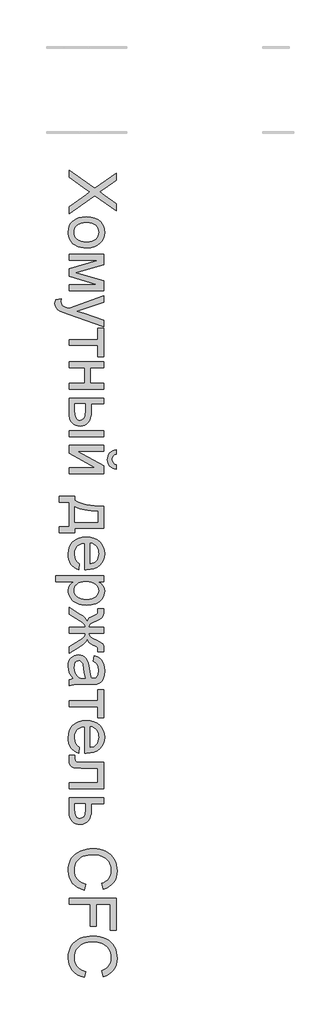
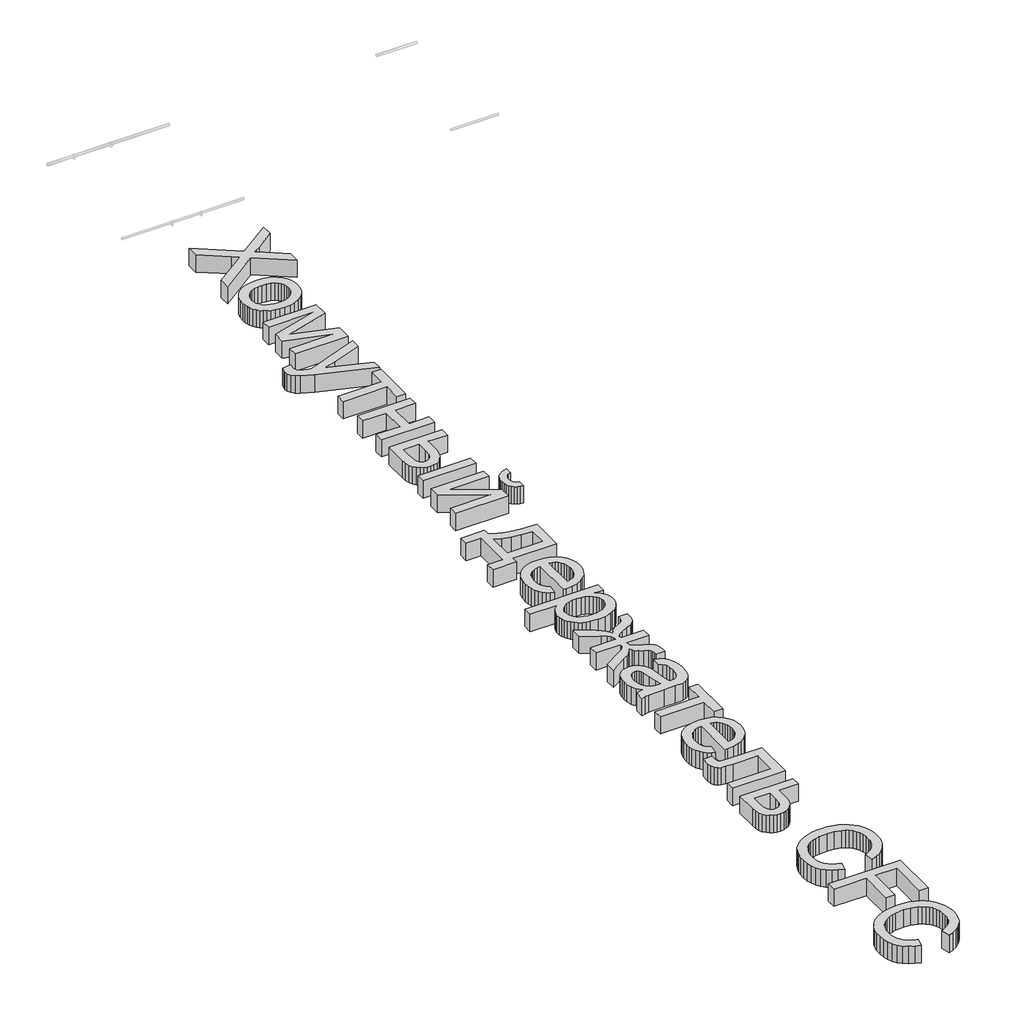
# One storey, part 25 of 33: 1 proxy.
"""IFC4 building model written with IfcOpenShell, lengths in millimetres."""

from ifc_helpers import new_model, si_unit, origin, origin_with_axes, place, context, project, spatial, polyline, outline, extrude, element, save

model = new_model("IFC4")

# Units and contexts
model_context = context("Model", 3, world=origin())
ifc_project = project(units=[si_unit("LENGTHUNIT", "METRE", prefix="MILLI")], contexts=[model_context])

# Site, building, storey
site = spatial("IfcSite", under=ifc_project)
building = spatial("IfcBuilding", under=site)
storey = spatial("IfcBuildingStorey", under=building, Name="Уровень 1", Elevation=0.0)

# Proxy
placement = place(None, origin())
element("IfcBuildingElementProxy", 1, Name="Надпись на модели 1", ObjectType="Надпись на модели 1", at=placement, inside=storey, context=model_context, shape_type="SweptSolid", body=[
    extrude(outline(polyline([(60724.4625724, -502.3363684), (61046.3856493, -730.0767531), (61315.2318032, -539.2594454), (61315.2318032, -627.8171377), (61163.9337262, -735.2690607), (61125.6043993, -760.90608), (61104.9433416, -771.4709838), (61164.9433416, -813.87483), (61315.2318032, -920.1729069), (61315.2318032, -1010.0286761), (61045.5202647, -819.2113684), (60724.4625724, -1046.9517531), (60724.4625724, -958.3940607), (60938.5010339, -806.6632915), (60982.9241109, -775.0767531), (60934.1741109, -740.3171377), (60724.4625724, -592.1921377), (60724.4625724, -502.3363684)])), origin_with_axes(), (0.0, 0.0, 1.0), 150.0),
    extrude(outline(polyline([(60941.3856493, -1083.87483), (60997.5725484, -1087.8682194), (61045.9890147, -1099.8483877), (61086.6350484, -1119.8153348), (61119.5106493, -1147.7690607), (61140.5232695, -1175.9120896), (61155.5322839, -1206.9757915), (61164.5376926, -1240.9601665), (61167.5394955, -1277.8652146), (61163.8841469, -1318.6058997), (61152.9181012, -1355.4433396), (61134.6413585, -1388.3775343), (61109.0539186, -1417.4084838), (61077.0211662, -1441.1028949), (61039.4084859, -1458.0274742), (60996.2158777, -1468.1822218), (60947.4433416, -1471.5671377), (60907.9150964, -1470.0707434), (60872.8399762, -1465.5815607), (60842.2179811, -1458.0995896), (60816.0491109, -1447.62483), (60793.445445, -1434.287991), (60773.5190628, -1418.2197819), (60756.2699642, -1399.4202026), (60741.6981493, -1377.8892531), (60730.1191229, -1354.4652747), (60721.8483897, -1329.9866088), (60716.8859498, -1304.4532555), (60715.2318032, -1277.8652146), (60718.8736301, -1236.5295776), (60729.7991109, -1199.3495896), (60748.0082455, -1166.3252506), (60773.5010339, -1137.4565607), (60805.8447839, -1114.0145535), (60844.6068032, -1097.2702627), (60889.7870916, -1087.2236881), (60941.3856493, -1083.87483)]), holes=[polyline([(60941.5298801, -1157.7209838), (60905.71107, -1159.8574021), (60874.6969474, -1166.2666569), (60848.4875123, -1176.9487482), (60827.0827647, -1191.9036761), (60810.4556613, -1210.0947819), (60798.5791589, -1230.4854069), (60791.4532575, -1253.0755511), (60789.077957, -1277.8652146), (60791.4667791, -1302.5286761), (60798.6332455, -1325.0286761), (60810.5773561, -1345.3652146), (60827.2991109, -1363.5382915), (60848.9156974, -1378.4932194), (60875.5443032, -1389.1753107), (60907.1849282, -1395.5845656), (60943.8375724, -1397.7209838), (60978.5205652, -1395.5710439), (61008.7233897, -1389.1212242), (61034.446046, -1378.3715247), (61055.6885339, -1363.3219454), (61072.3156373, -1345.0812603), (61084.1921397, -1324.7582434), (61091.3180412, -1302.3528949), (61093.6933416, -1277.8652146), (61091.3270556, -1253.0755511), (61084.2281974, -1230.4854069), (61072.3967671, -1210.0947819), (61055.8327647, -1191.9036761), (61034.4911181, -1176.9487482), (61008.3267551, -1166.2666569), (60977.3396758, -1159.8574021), (60941.5298801, -1157.7209838)])]), origin_with_axes(), (0.0, 0.0, 1.0), 150.0),
    extrude(outline(polyline([(61158.3087262, -1554.6440607), (61158.3087262, -1681.7113684), (60811.0010339, -1779.6440607), (61158.3087262, -1885.2209838), (61158.3087262, -2006.9517531), (60724.4625724, -2006.9517531), (60724.4625724, -1933.1055992), (61073.7894955, -1933.1055992), (60724.4625724, -1826.9517531), (60724.4625724, -1730.0286761), (61090.5202647, -1628.4902146), (60724.4625724, -1628.4902146), (60724.4625724, -1554.6440607), (61158.3087262, -1554.6440607)])), origin_with_axes(), (0.0, 0.0, 1.0), 150.0),
    extrude(outline(polyline([(60558.3087262, -2117.7209838), (60629.4144955, -2108.4902146), (60622.9241109, -2145.9902146), (60624.9613705, -2165.7137723), (60631.0731493, -2181.0382915), (60640.8267551, -2192.9733877), (60653.7894955, -2202.5286761), (60708.1644955, -2222.7209838), (60726.0491109, -2228.4902146), (61158.3087262, -2071.5671377), (61158.3087262, -2149.4517531), (60917.4433416, -2232.6729069), (60821.0971878, -2261.6632915), (60906.1933416, -2290.6536761), (61158.3087262, -2376.1825223), (61158.3087262, -2453.4902146), (60714.077957, -2302.4805992), (60617.7318032, -2263.24983), (60586.9745916, -2243.1656954), (60565.6644955, -2220.4132915), (60553.2245916, -2193.9830031), (60549.077957, -2162.8652146), (60551.3856493, -2141.4830031), (60558.3087262, -2117.7209838)])), origin_with_axes(), (0.0, 0.0, 1.0), 150.0),
    extrude(outline(polyline([(61158.3087262, -2477.7209838), (61158.3087262, -2828.4902146), (61084.4625724, -2828.4902146), (61084.4625724, -2690.0286761), (60724.4625724, -2690.0286761), (60724.4625724, -2616.1825223), (61084.4625724, -2616.1825223), (61084.4625724, -2477.7209838), (61158.3087262, -2477.7209838)])), origin_with_axes(), (0.0, 0.0, 1.0), 150.0),
    extrude(outline(polyline([(61158.3087262, -2893.1055992), (61158.3087262, -2966.9517531), (60992.1548801, -2966.9517531), (60992.1548801, -3160.7979069), (61158.3087262, -3160.7979069), (61158.3087262, -3234.6440607), (60724.4625724, -3234.6440607), (60724.4625724, -3160.7979069), (60918.3087262, -3160.7979069), (60918.3087262, -2966.9517531), (60724.4625724, -2966.9517531), (60724.4625724, -2893.1055992), (61158.3087262, -2893.1055992)])), origin_with_axes(), (0.0, 0.0, 1.0), 150.0),
    extrude(outline(polyline([(61158.3087262, -3345.4132915), (61158.3087262, -3419.2594454), (61001.3856493, -3419.2594454), (61001.3856493, -3510.5575223), (60999.0734498, -3552.569241), (60992.1368512, -3589.4697819), (60980.5758537, -3621.2591449), (60964.390457, -3647.93733), (60944.1395556, -3669.0446016), (60920.3820436, -3684.1212242), (60893.117921, -3693.1671978), (60862.3471878, -3696.1825223), (60834.8937623, -3693.6539766), (60809.5046397, -3686.0683396), (60786.17982, -3673.4256112), (60764.9193032, -3655.7257915), (60747.2194835, -3632.4730872), (60734.5767551, -3603.171705), (60726.9911181, -3567.8216449), (60724.4625724, -3526.4229069), (60724.4625724, -3345.4132915), (61158.3087262, -3345.4132915)]), holes=[polyline([(60798.3087262, -3419.2594454), (60798.3087262, -3495.12483), (60802.1849282, -3553.9349261), (60807.0301806, -3575.9571617), (60813.8135339, -3593.0575223), (60822.6521758, -3605.8670175), (60833.6632936, -3615.0166569), (60846.8468873, -3620.5064406), (60862.202957, -3622.3363684), (60886.3255532, -3616.9096857), (60907.6356493, -3600.6296377), (60916.343582, -3586.4995295), (60922.5635339, -3565.8159357), (60927.5394955, -3504.7882915), (60927.5394955, -3419.2594454), (60798.3087262, -3419.2594454)])]), origin_with_axes(), (0.0, 0.0, 1.0), 150.0),
    extrude(outline(polyline([(61158.3087262, -3751.5671377), (61158.3087262, -3825.4132915), (60724.4625724, -3825.4132915), (60724.4625724, -3751.5671377), (61158.3087262, -3751.5671377)])), origin_with_axes(), (0.0, 0.0, 1.0), 150.0),
    extrude(outline(polyline([(61315.2318032, -4176.1825223), (61315.2318032, -4231.5671377), (61290.0319835, -4227.1095055), (61267.9421397, -4219.6500704), (61248.9622719, -4209.1888324), (61233.0923801, -4195.7257915), (61220.5668392, -4179.5313805), (61211.6200243, -4160.8760319), (61206.2519354, -4139.7597458), (61204.4625724, -4116.1825223), (61206.2384137, -4090.5725463), (61211.5659378, -4067.6849261), (61220.4451445, -4047.5196617), (61232.8760339, -4030.0767531), (61248.6783176, -4015.608604), (61267.671707, -4004.3676184), (61289.8562022, -3996.3537963), (61315.2318032, -3991.5671377), (61315.2318032, -4046.9517531), (61290.9108897, -4054.7402146), (61273.6212262, -4067.7209838), (61263.2906974, -4085.9661761), (61259.8471878, -4109.5479069), (61263.1825243, -4136.1584838), (61273.1885339, -4155.4132915), (61290.3700243, -4168.3940607), (61315.2318032, -4176.1825223)])), origin_with_axes(), (0.0, 0.0, 1.0), 150.0),
    extrude(outline(polyline([(61158.3087262, -3936.1825223), (61158.3087262, -4010.0286761), (60827.4433416, -4010.0286761), (61158.3087262, -4191.4709838), (61158.3087262, -4286.9517531), (60724.4625724, -4286.9517531), (60724.4625724, -4213.1055992), (61053.3087262, -4213.1055992), (60724.4625724, -4032.8171377), (60724.4625724, -3936.1825223), (61158.3087262, -3936.1825223)])), origin_with_axes(), (0.0, 0.0, 1.0), 150.0),
    extrude(outline(polyline([(61158.3087262, -4693.1055992), (61158.3087262, -4970.0286761), (60798.3087262, -4970.0286761), (60798.3087262, -5025.4132915), (60604.4625724, -5025.4132915), (60604.4625724, -4951.5671377), (60724.4625724, -4951.5671377), (60724.4625724, -4646.9517531), (60604.4625724, -4646.9517531), (60604.4625724, -4573.1055992), (60798.3087262, -4573.1055992), (60798.3087262, -4619.2594454), (60826.1768152, -4637.2927987), (60858.9397359, -4652.8111281), (60896.5974883, -4665.8144333), (60939.1500724, -4676.3027146), (61038.9397359, -4689.734205), (61158.3087262, -4693.1055992)]), holes=[polyline([(61084.4625724, -4757.7209838), (60994.0479089, -4751.6632915), (60916.2173801, -4740.4132915), (60850.9709859, -4723.9709838), (60798.3087262, -4702.3363684), (60798.3087262, -4896.1825223), (61084.4625724, -4896.1825223), (61084.4625724, -4757.7209838)])]), origin_with_axes(), (0.0, 0.0, 1.0), 150.0),
    extrude(outline(polyline([(60853.6933416, -5412.2402146), (60844.4625724, -5484.6440607), (60815.4631734, -5473.5427987), (60789.9072839, -5458.5563204), (60767.7949041, -5439.6846256), (60749.1260339, -5416.9277146), (60734.297308, -5390.5199622), (60723.7053609, -5360.6957434), (60717.3501926, -5327.4550583), (60715.2318032, -5290.7979069), (60718.8871517, -5244.9775944), (60729.8531974, -5204.1512723), (60748.1299402, -5168.3189406), (60773.7173801, -5137.4805992), (60805.9033777, -5112.6819213), (60843.9757936, -5094.96858), (60887.9346277, -5084.3405752), (60937.7798801, -5080.7979069), (60989.3153368, -5084.3766329), (61034.7390147, -5095.1128107), (61074.0509137, -5113.0064406), (61107.2510339, -5138.0575223), (61133.6272359, -5168.8147338), (61152.4673801, -5203.8267531), (61163.7714666, -5243.09358), (61167.5394955, -5286.6152146), (61163.7804811, -5328.7351064), (61152.5034378, -5366.8255511), (61133.7083657, -5400.8865487), (61107.3952647, -5430.9180992), (61074.2672599, -5455.4328228), (61035.0274762, -5472.9433396), (60989.6759137, -5483.4496497), (60938.2125724, -5486.9517531), (60918.3087262, -5486.5190607), (60918.3087262, -5154.6440607), (60888.8405772, -5158.9214045), (60863.0322839, -5167.4265127), (60840.8838464, -5180.1593853), (60822.3952647, -5197.1200223), (60807.8189426, -5217.3709237), (60797.4072839, -5239.9745896), (60791.1602887, -5264.9310199), (60789.077957, -5292.2402146), (60792.9361301, -5331.5430992), (60804.5106493, -5364.6440607), (60824.5226686, -5391.5430992), (60853.6933416, -5412.2402146)]), holes=[polyline([(60992.1548801, -5154.6440607), (60992.1548801, -5413.1055992), (61031.1693032, -5403.1176184), (61046.5118512, -5394.5268732), (61059.077957, -5383.5382915), (61074.2221878, -5363.4000704), (61085.0394955, -5340.4854069), (61091.5298801, -5314.7943011), (61093.6933416, -5286.3267531), (61091.9670796, -5260.3607074), (61086.7882936, -5236.5491088), (61078.1569835, -5214.8919574), (61066.0731493, -5195.3892531), (61051.0956854, -5179.023568), (61033.7834859, -5166.7774742), (61014.1365508, -5158.6509718), (60992.1548801, -5154.6440607)])]), origin_with_axes(), (0.0, 0.0, 1.0), 150.0),
    extrude(outline(polyline([(60558.3087262, -5560.7979069), (61158.3087262, -5560.7979069), (61158.3087262, -5634.6440607), (61085.9048801, -5634.6440607), (61121.6200243, -5658.7305992), (61147.1308416, -5685.7017531), (61162.437332, -5717.1440607), (61167.5394955, -5754.6440607), (61165.7546397, -5780.3982675), (61160.4000724, -5804.5839646), (61151.4757936, -5827.2011521), (61138.9818032, -5848.24983), (61123.2426205, -5867.2702627), (61104.5827647, -5883.8027146), (61083.0022359, -5897.8471857), (61058.5010339, -5909.4036761), (61004.0899762, -5924.8724261), (60944.702957, -5930.0286761), (60881.5479089, -5924.2053588), (60852.4718873, -5916.9262122), (60825.0635339, -5906.7354069), (60800.0394955, -5893.7726665), (60778.1164186, -5878.1777146), (60759.2943032, -5859.9505511), (60743.5731493, -5839.0911761), (60731.1738104, -5816.6227266), (60722.3171397, -5793.5683396), (60717.0031373, -5769.9280151), (60715.2318032, -5745.7017531), (60719.9733897, -5711.7534357), (60734.1981493, -5681.4469454), (60755.6705051, -5655.5034357), (60782.1548801, -5634.6440607), (60558.3087262, -5634.6440607), (60558.3087262, -5560.7979069)]), holes=[polyline([(60937.9241109, -5634.6440607), (60902.3351686, -5636.6407555), (60871.7221878, -5642.6308396), (60846.0851686, -5652.6143131), (60825.4241109, -5666.5911761), (60809.5226686, -5683.4165968), (60798.1644955, -5701.9457434), (60791.3495916, -5722.178616), (60789.077957, -5744.1152146), (60791.4307214, -5766.367318), (60798.4890147, -5786.9697819), (60810.2528368, -5805.9226064), (60826.7221878, -5823.2257915), (60848.1314426, -5837.6443612), (60874.7149762, -5847.9433396), (60906.4727887, -5854.1227266), (60943.4048801, -5856.1825223), (60978.687332, -5854.1723059), (61009.2462262, -5848.1416569), (61035.0815628, -5838.0905752), (61056.1933416, -5824.0190607), (61072.5995916, -5807.1530752), (61084.3183416, -5788.71858), (61091.3495916, -5768.7155752), (61093.6933416, -5747.1440607), (61091.2008537, -5725.6401545), (61083.7233897, -5705.4072819), (61071.2609498, -5686.445443), (61053.8135339, -5668.7546377), (61031.6155171, -5653.8312603), (61004.9012743, -5643.171705), (60973.6708056, -5636.7759718), (60937.9241109, -5634.6440607)])]), origin_with_axes(), (0.0, 0.0, 1.0), 150.0),
    extrude(outline(polyline([(61158.3087262, -6280.7979069), (60973.6933416, -6280.7979069), (60977.4974282, -6306.8495896), (60988.9096878, -6323.8507915), (61016.2594474, -6340.2750704), (61067.8760339, -6364.5959838), (61117.0947839, -6390.0166569), (61133.1855291, -6401.8886521), (61143.5971878, -6413.2017531), (61154.6308416, -6441.3628107), (61158.3087262, -6482.2882915), (61158.3087262, -6511.5671377), (61084.0298801, -6511.5671377), (61084.4625724, -6491.2305992), (61082.5515147, -6466.8555992), (61076.8183416, -6453.1536761), (61060.8087262, -6442.2281954), (61028.9337262, -6426.7594454), (60996.8423801, -6410.8039165), (60976.4337262, -6396.1104069), (60962.4793993, -6378.1356473), (60949.7510339, -6352.3363684), (60939.3574041, -6376.6302386), (60921.0130532, -6400.6176184), (60894.7179811, -6424.2985079), (60860.4721878, -6447.6729069), (60724.4625724, -6530.0286761), (60724.4625724, -6445.3652146), (60858.5971878, -6364.3075223), (60893.8075243, -6342.1500704), (60914.3423801, -6322.9854069), (60924.2402166, -6303.6043973), (60927.5394955, -6280.7979069), (60724.4625724, -6280.7979069), (60724.4625724, -6206.9517531), (60927.5394955, -6206.9517531), (60924.312332, -6184.3255511), (60914.6308416, -6164.9084838), (60894.2402166, -6145.5995896), (60858.8856493, -6123.2979069), (60724.4625724, -6042.2402146), (60724.4625724, -5957.7209838), (60860.4721878, -6039.7882915), (60894.7179811, -6063.3610079), (60921.0130532, -6087.2041569), (60939.3574041, -6111.3177386), (60949.7510339, -6135.7017531), (60963.8856493, -6107.5046377), (60979.1741109, -6089.2594454), (61006.0370916, -6072.6729069), (61054.8952647, -6049.4517531), (61071.1572839, -6040.0406954), (61079.8471878, -6029.9805992), (61083.6332455, -6016.6753107), (61084.8952647, -5998.1055992), (61084.4625724, -5976.1825223), (61158.3087262, -5976.1825223), (61158.3087262, -5987.2882915), (61157.1548801, -6026.4830031), (61153.6933416, -6052.0479069), (61146.4818032, -6069.8243492), (61134.077957, -6085.6536761), (61110.0274762, -6102.4926184), (61067.8760339, -6123.2979069), (61016.890457, -6147.3664165), (60989.4144955, -6163.6104069), (60977.6236301, -6180.6116088), (60973.6933416, -6206.9517531), (61158.3087262, -6206.9517531), (61158.3087262, -6280.7979069)])), origin_with_axes(), (0.0, 0.0, 1.0), 150.0),
    extrude(outline(polyline([(60779.8471878, -6843.87483), (60749.5947839, -6808.5923781), (60729.7991109, -6772.2642531), (60718.8736301, -6734.0611281), (60715.2318032, -6693.1536761), (60717.422308, -6660.273568), (60723.9938224, -6631.4409357), (60734.9463464, -6606.6557795), (60750.2798801, -6585.9180992), (60769.0208657, -6569.5433997), (60790.1957455, -6557.8471857), (60813.8045195, -6550.8294574), (60839.8471878, -6548.4902146), (60870.4601686, -6552.0238684), (60898.2606493, -6562.62483), (60922.0587262, -6578.9769934), (60940.6644955, -6599.7642531), (60954.7269955, -6624.1933396), (60964.8952647, -6651.4709838), (60976.0010339, -6715.3652146), (60987.6837262, -6790.8700223), (61001.3856493, -6843.4421377), (61017.827957, -6843.87483), (61050.7846878, -6838.7906954), (61062.9902166, -6832.4355271), (61072.3471878, -6823.5382915), (61081.6861301, -6808.1596857), (61088.3568032, -6789.4277146), (61093.6933416, -6741.9036761), (61090.1416589, -6697.9132915), (61079.4866109, -6667.1921377), (61059.781082, -6646.2426184), (61029.077957, -6631.5671377), (61038.3087262, -6557.7209838), (61078.6933416, -6570.5394934), (61110.4241109, -6589.6680992), (61134.6909378, -6616.8916569), (61152.6837262, -6653.9950223), (61163.8255532, -6699.3736281), (61167.5394955, -6751.4229069), (61164.2582455, -6801.3447819), (61154.4144955, -6840.9180992), (61139.6128128, -6870.7558396), (61121.4577647, -6891.4709838), (61099.0118512, -6905.2089646), (61071.3375724, -6914.1152146), (61006.7221878, -6917.7209838), (60914.8471878, -6917.7209838), (60786.5539186, -6921.4709838), (60754.8411782, -6927.0238684), (60724.4625724, -6936.1825223), (60724.4625724, -6862.3363684), (60750.1356493, -6850.5094454), (60779.8471878, -6843.87483)]), holes=[polyline([(60927.5394955, -6843.87483), (60915.2438224, -6794.2594454), (60904.8952647, -6724.7402146), (60892.9241109, -6661.2065607), (60884.7390147, -6644.6741088), (60873.452957, -6632.4325223), (60859.9313224, -6624.8604069), (60845.0394955, -6622.3363684), (60823.0803609, -6627.8351665), (60805.0875724, -6644.3315607), (60793.0803609, -6671.4649742), (60789.077957, -6708.87483), (60793.4950243, -6748.5382915), (60806.7462262, -6783.5863684), (60826.2714666, -6811.99983), (60849.5106493, -6831.7594454), (60873.452957, -6840.5214646), (60906.6260339, -6843.4421377), (60927.5394955, -6843.87483)])]), origin_with_axes(), (0.0, 0.0, 1.0), 150.0),
    extrude(outline(polyline([(61158.3087262, -6982.3363684), (61158.3087262, -7333.1055992), (61084.4625724, -7333.1055992), (61084.4625724, -7194.6440607), (60724.4625724, -7194.6440607), (60724.4625724, -7120.7979069), (61084.4625724, -7120.7979069), (61084.4625724, -6982.3363684), (61158.3087262, -6982.3363684)])), origin_with_axes(), (0.0, 0.0, 1.0), 150.0),
    extrude(outline(polyline([(60853.6933416, -7701.4709838), (60844.4625724, -7773.87483), (60815.4631734, -7762.773568), (60789.9072839, -7747.7870896), (60767.7949041, -7728.9153949), (60749.1260339, -7706.1584838), (60734.297308, -7679.7507314), (60723.7053609, -7649.9265127), (60717.3501926, -7616.6858276), (60715.2318032, -7580.0286761), (60718.8871517, -7534.2083636), (60729.8531974, -7493.3820415), (60748.1299402, -7457.5497098), (60773.7173801, -7426.7113684), (60805.9033777, -7401.9126906), (60843.9757936, -7384.1993492), (60887.9346277, -7373.5713444), (60937.7798801, -7370.0286761), (60989.3153368, -7373.6074021), (61034.7390147, -7384.34358), (61074.0509137, -7402.2372098), (61107.2510339, -7427.2882915), (61133.6272359, -7458.0455031), (61152.4673801, -7493.0575223), (61163.7714666, -7532.3243492), (61167.5394955, -7575.8459838), (61163.7804811, -7617.9658756), (61152.5034378, -7656.0563204), (61133.7083657, -7690.117318), (61107.3952647, -7720.1488684), (61074.2672599, -7744.663592), (61035.0274762, -7762.1741088), (60989.6759137, -7772.6804189), (60938.2125724, -7776.1825223), (60918.3087262, -7775.74983), (60918.3087262, -7443.87483), (60888.8405772, -7448.1521737), (60863.0322839, -7456.6572819), (60840.8838464, -7469.3901545), (60822.3952647, -7486.3507915), (60807.8189426, -7506.601693), (60797.4072839, -7529.2053588), (60791.1602887, -7554.1617891), (60789.077957, -7581.4709838), (60792.9361301, -7620.7738684), (60804.5106493, -7653.87483), (60824.5226686, -7680.7738684), (60853.6933416, -7701.4709838)]), holes=[polyline([(60992.1548801, -7443.87483), (60992.1548801, -7702.3363684), (61031.1693032, -7692.3483877), (61046.5118512, -7683.7576425), (61059.077957, -7672.7690607), (61074.2221878, -7652.6308396), (61085.0394955, -7629.7161761), (61091.5298801, -7604.0250704), (61093.6933416, -7575.5575223), (61091.9670796, -7549.5914766), (61086.7882936, -7525.7798781), (61078.1569835, -7504.1227266), (61066.0731493, -7484.6200223), (61051.0956854, -7468.2543372), (61033.7834859, -7456.0082434), (61014.1365508, -7447.881741), (60992.1548801, -7443.87483)])]), origin_with_axes(), (0.0, 0.0, 1.0), 150.0),
    extrude(outline(polyline([(61158.3087262, -7886.9517531), (61158.3087262, -8219.2594454), (60724.8952647, -8219.2594454), (60724.8952647, -8145.4132915), (61084.4625724, -8145.4132915), (61084.4625724, -7960.7979069), (60877.4914186, -7960.7979069), (60817.4193032, -7959.5539165), (60782.0106493, -7955.8219454), (60760.3940628, -7946.5010319), (60741.6981493, -7928.4902146), (60728.7714666, -7901.1584838), (60724.4625724, -7863.87483), (60728.2125724, -7803.87483), (60798.3087262, -7803.87483), (60798.3087262, -7836.9036761), (60802.8519955, -7870.2930992), (60808.7293993, -7878.640455), (60817.2750724, -7883.6344454), (60881.6741109, -7886.9517531), (61158.3087262, -7886.9517531)])), origin_with_axes(), (0.0, 0.0, 1.0), 150.0),
    extrude(outline(polyline([(61158.3087262, -8330.0286761), (61158.3087262, -8403.87483), (61001.3856493, -8403.87483), (61001.3856493, -8488.9709838), (60999.0734498, -8528.2558396), (60992.1368512, -8562.7450223), (60980.5758537, -8592.4385319), (60964.390457, -8617.3363684), (60944.1395556, -8637.0238684), (60920.3820436, -8651.0863684), (60893.117921, -8659.5238684), (60862.3471878, -8662.3363684), (60834.8937623, -8659.9430391), (60809.5046397, -8652.7630511), (60786.17982, -8640.7964045), (60764.9193032, -8624.0430992), (60747.2194835, -8602.0253708), (60734.5767551, -8574.265455), (60726.9911181, -8540.7633516), (60724.4625724, -8501.5190607), (60724.4625724, -8330.0286761), (61158.3087262, -8330.0286761)]), holes=[polyline([(60798.3087262, -8403.87483), (60798.3087262, -8472.8171377), (60802.1849282, -8526.3087242), (60807.0301806, -8546.3342651), (60813.8135339, -8561.8796377), (60822.6521758, -8573.5217651), (60833.6632936, -8581.8375704), (60846.8468873, -8586.8270535), (60862.202957, -8588.4902146), (60886.3255532, -8583.5683396), (60907.6356493, -8568.8027146), (60916.343582, -8555.9706833), (60922.5635339, -8537.1620896), (60927.5394955, -8481.6152146), (60927.5394955, -8403.87483), (60798.3087262, -8403.87483)])]), origin_with_axes(), (0.0, 0.0, 1.0), 150.0),
    extrude(outline(polyline([(60934.4625724, -9410.0286761), (60915.4241109, -9483.87483), (60869.5001325, -9469.2624502), (60829.3724282, -9449.8003107), (60795.0409979, -9425.4884117), (60766.5058416, -9396.3267531), (60744.0734498, -9362.9733877), (60728.0503128, -9326.0863684), (60718.4364306, -9285.6656954), (60715.2318032, -9241.7113684), (60717.656683, -9196.679818), (60724.9313224, -9156.0563204), (60737.0557214, -9119.8408756), (60754.0298801, -9088.0334838), (60775.6013945, -9060.1969454), (60801.5178609, -9035.8940607), (60831.7792791, -9015.12483), (60866.3856493, -8997.8892531), (60903.8405772, -8984.3540968), (60942.6476686, -8974.6861281), (60982.8069234, -8968.8853468), (61024.3183416, -8966.9517531), (61068.8586061, -8969.1377506), (61110.4601686, -8975.6957434), (61149.1230291, -8986.6257314), (61184.8471878, -9001.9277146), (61217.0421998, -9021.2591449), (61245.1176205, -9044.2774742), (61269.0734498, -9070.9827026), (61288.9096878, -9101.37483), (61304.4640748, -9134.421705), (61315.5743512, -9169.0911761), (61322.2405171, -9205.3832434), (61324.4625724, -9243.2979069), (61321.5869714, -9285.5349862), (61312.9601686, -9324.265455), (61298.5821637, -9359.4893131), (61278.452957, -9391.2065607), (61253.1043993, -9418.8943612), (61223.0683416, -9442.0298781), (61188.3447839, -9460.6131112), (61148.9337262, -9474.6440607), (61131.3375724, -9400.7979069), (61160.3775363, -9389.1693011), (61185.1897359, -9375.1969454), (61205.774171, -9358.8808396), (61222.1308416, -9340.2209838), (61234.5932815, -9319.109205), (61243.4950243, -9295.43733), (61248.83607, -9269.2053588), (61250.6164186, -9240.4132915), (61248.6422599, -9207.2852867), (61242.7197839, -9176.9878107), (61232.8489907, -9149.5208636), (61219.0298801, -9124.8844454), (61201.8844474, -9103.3895535), (61182.0346878, -9085.3471857), (61159.4806012, -9070.757342), (61134.2221878, -9059.6200223), (61080.171707, -9045.5034357), (61024.4625724, -9040.7979069), (60956.2414186, -9046.3688204), (60925.5923801, -9053.3324622), (60897.2510339, -9063.0815607), (60871.7807815, -9075.7738684), (60849.7450243, -9091.5671377), (60831.1437623, -9110.4613684), (60815.9769955, -9132.4565607), (60804.2086662, -9156.4845055), (60795.8027166, -9181.4769934), (60790.7591469, -9207.4340247), (60789.077957, -9234.3555992), (60791.3676205, -9266.460467), (60798.2366109, -9295.9962242), (60809.6849282, -9322.9628708), (60825.7125724, -9347.3604069), (60846.2474282, -9368.6119093), (60871.2173801, -9386.140455), (60900.6224282, -9399.9460439), (60934.4625724, -9410.0286761)])), origin_with_axes(), (0.0, 0.0, 1.0), 150.0),
    extrude(outline(polyline([(60724.4625724, -9585.4132915), (61315.2318032, -9585.4132915), (61315.2318032, -9982.3363684), (61241.3856493, -9982.3363684), (61241.3856493, -9659.2594454), (61066.0010339, -9659.2594454), (61066.0010339, -9936.1825223), (60992.1548801, -9936.1825223), (60992.1548801, -9659.2594454), (60724.4625724, -9659.2594454), (60724.4625724, -9585.4132915)])), origin_with_axes(), (0.0, 0.0, 1.0), 150.0),
    extrude(outline(polyline([(60934.4625724, -10499.2594454), (60915.4241109, -10573.1055992), (60869.5001325, -10558.4932194), (60829.3724282, -10539.03108), (60795.0409979, -10514.7191809), (60766.5058416, -10485.5575223), (60744.0734498, -10452.2041569), (60728.0503128, -10415.3171377), (60718.4364306, -10374.8964646), (60715.2318032, -10330.9421377), (60717.656683, -10285.9105872), (60724.9313224, -10245.2870896), (60737.0557214, -10209.0716449), (60754.0298801, -10177.2642531), (60775.6013945, -10149.4277146), (60801.5178609, -10125.12483), (60831.7792791, -10104.3555992), (60866.3856493, -10087.1200223), (60903.8405772, -10073.584866), (60942.6476686, -10063.9168973), (60982.8069234, -10058.116116), (61024.3183416, -10056.1825223), (61068.8586061, -10058.3685199), (61110.4601686, -10064.9265127), (61149.1230291, -10075.8565006), (61184.8471878, -10091.1584838), (61217.0421998, -10110.4899141), (61245.1176205, -10133.5082434), (61269.0734498, -10160.2134718), (61288.9096878, -10190.6055992), (61304.4640748, -10223.6524742), (61315.5743512, -10258.3219454), (61322.2405171, -10294.6140127), (61324.4625724, -10332.5286761), (61321.5869714, -10374.7657555), (61312.9601686, -10413.4962242), (61298.5821637, -10448.7200824), (61278.452957, -10480.43733), (61253.1043993, -10508.1251305), (61223.0683416, -10531.2606473), (61188.3447839, -10549.8438805), (61148.9337262, -10563.87483), (61131.3375724, -10490.0286761), (61160.3775363, -10478.4000704), (61185.1897359, -10464.4277146), (61205.774171, -10448.1116088), (61222.1308416, -10429.4517531), (61234.5932815, -10408.3399742), (61243.4950243, -10384.6680992), (61248.83607, -10358.4361281), (61250.6164186, -10329.6440607), (61248.6422599, -10296.5160559), (61242.7197839, -10266.21858), (61232.8489907, -10238.7516329), (61219.0298801, -10214.1152146), (61201.8844474, -10192.6203228), (61182.0346878, -10174.577955), (61159.4806012, -10159.9881112), (61134.2221878, -10148.8507915), (61080.171707, -10134.734205), (61024.4625724, -10130.0286761), (60956.2414186, -10135.5995896), (60925.5923801, -10142.5632314), (60897.2510339, -10152.31233), (60871.7807815, -10165.0046377), (60849.7450243, -10180.7979069), (60831.1437623, -10199.6921377), (60815.9769955, -10221.68733), (60804.2086662, -10245.7152747), (60795.8027166, -10270.7077627), (60790.7591469, -10296.6647939), (60789.077957, -10323.5863684), (60791.3676205, -10355.6912362), (60798.2366109, -10385.2269934), (60809.6849282, -10412.1936401), (60825.7125724, -10436.5911761), (60846.2474282, -10457.8426785), (60871.2173801, -10475.3712242), (60900.6224282, -10489.1768131), (60934.4625724, -10499.2594454)])), origin_with_axes(), (0.0, 0.0, 1.0), 150.0),
])

save(model, "model.ifc")
